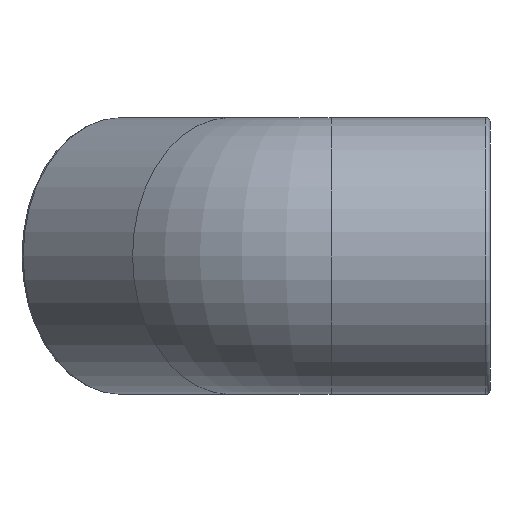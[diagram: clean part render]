
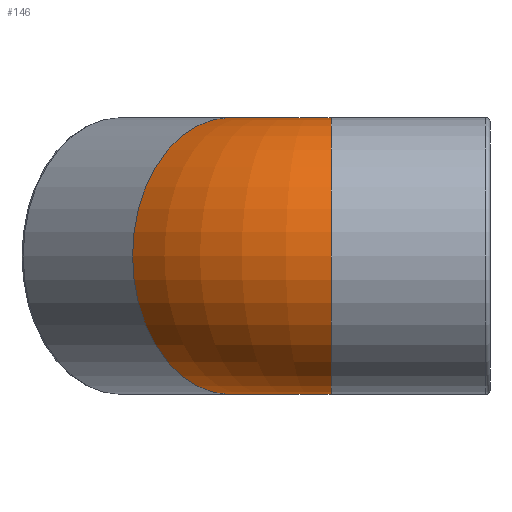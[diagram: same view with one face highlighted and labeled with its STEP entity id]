
A CAD part, left-side view. The second image highlights one B-rep face of the part: STEP entity #146.
In plain terms, the highlighted toroidal (fillet/blend) face has major radius 17 mm and minor radius 16.5 mm.
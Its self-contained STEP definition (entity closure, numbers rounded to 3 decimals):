
#36=FACE_BOUND('',#72,.T.);
#48=FACE_OUTER_BOUND('',#71,.T.);
#71=EDGE_LOOP('',(#129));
#72=EDGE_LOOP('',(#130));
#75=CIRCLE('',#153,16.5);
#79=CIRCLE('',#160,16.5);
#85=VERTEX_POINT('',#224);
#89=VERTEX_POINT('',#235);
#97=EDGE_CURVE('',#85,#85,#75,.T.);
#101=EDGE_CURVE('',#89,#89,#79,.T.);
#129=ORIENTED_EDGE('',*,*,#101,.F.);
#130=ORIENTED_EDGE('',*,*,#97,.T.);
#134=TOROIDAL_SURFACE('',#170,17.,16.5);
#146=ADVANCED_FACE('',(#48,#36),#134,.T.);
#153=AXIS2_PLACEMENT_3D('',#225,#181,#182);
#160=AXIS2_PLACEMENT_3D('',#236,#195,#196);
#170=AXIS2_PLACEMENT_3D('',#383,#215,#216);
#181=DIRECTION('center_axis',(0.,1.,0.));
#182=DIRECTION('ref_axis',(1.,0.,0.));
#195=DIRECTION('center_axis',(0.707,0.707,0.));
#196=DIRECTION('ref_axis',(0.707,-0.707,0.));
#215=DIRECTION('center_axis',(0.,0.,-1.));
#216=DIRECTION('ref_axis',(-1.,0.,0.));
#224=CARTESIAN_POINT('',(-16.5,18.958,0.));
#225=CARTESIAN_POINT('Origin',(0.,18.958,0.));
#235=CARTESIAN_POINT('',(-6.688,42.646,0.));
#236=CARTESIAN_POINT('Origin',(4.979,30.979,0.));
#383=CARTESIAN_POINT('Origin',(17.,18.958,0.));
